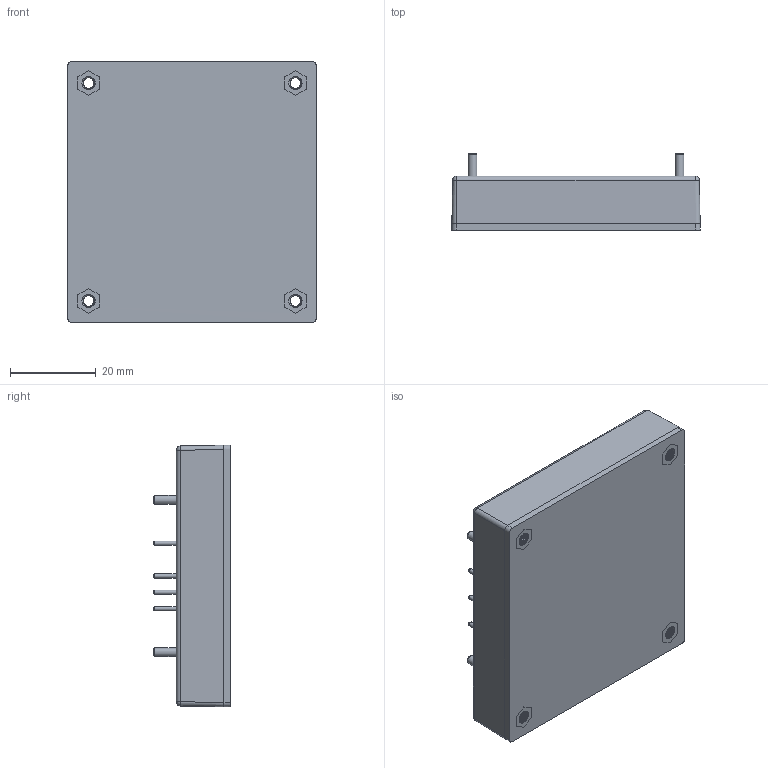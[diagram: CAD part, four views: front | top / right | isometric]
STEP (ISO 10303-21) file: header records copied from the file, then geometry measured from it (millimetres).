
FILE_DESCRIPTION (( 'STEP AP203' ), '1' );
FILE_NAME ('CHB200W12,CHB150W12¦¨«~¹Ï2024.11.15.STEP', '2024-11-15T09:45:35', ( '' ), ( '' ), 'SwSTEP 2.0', 'SolidWorks 2020', '' );
FILE_SCHEMA (( 'CONFIG_CONTROL_DESIGN' ));
Length unit declared in the file: millimetre
Products named in the file (1): CHB200W12,CHB150W12成品圖2024.11.15
Bounding box: 57.9 x 17.9 x 61 mm (x, y, z)
Volume: 43837.5 mm3; surface area: 11044 mm2
Topology: 1 solids, 5 shells, 151 faces, 335 edges, 225 vertices
Faces by surface type: plane 63, cylinder 53, cone 23, bspline 8, sphere 4
Full cylindrical faces by diameter (mm): 1 x7, 2 x4, 3.8 x4, 4.3 x8, 4.6 x4
Entity records: 13895 total; most frequent: CARTESIAN_POINT 10780, DIRECTION 618, ORIENTED_EDGE 538, EDGE_CURVE 269, AXIS2_PLACEMENT_3D 267, EDGE_LOOP 248, VERTEX_POINT 209, FACE_OUTER_BOUND 178
